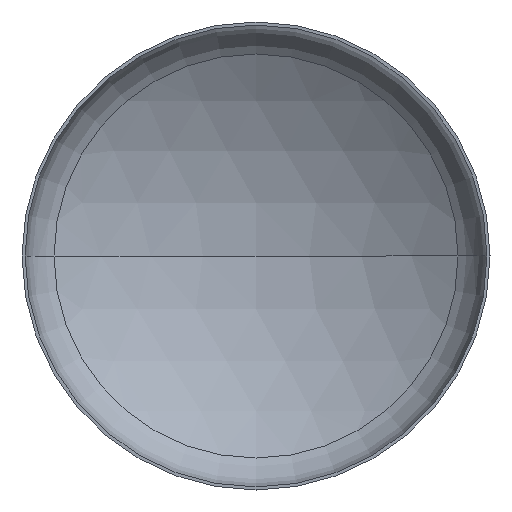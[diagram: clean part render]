
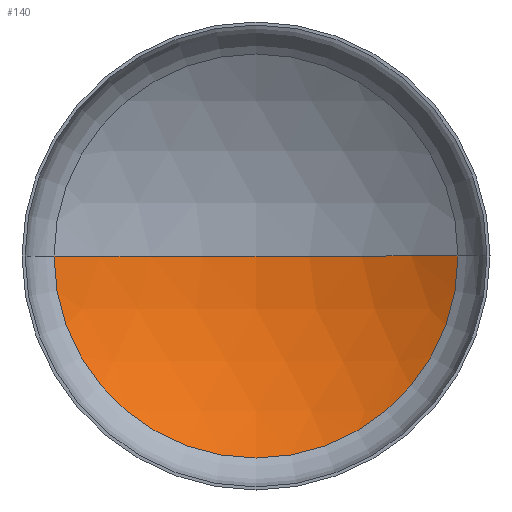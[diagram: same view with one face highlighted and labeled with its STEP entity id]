
A CAD part, front view. The second image highlights one B-rep face of the part: STEP entity #140.
In plain terms, the highlighted spherical face has radius 239.2 mm.
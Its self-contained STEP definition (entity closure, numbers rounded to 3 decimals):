
#22 = DIRECTION ( 'NONE',  ( 1., 0., 0. ) ) ;
#35 = AXIS2_PLACEMENT_3D ( 'NONE', #373, #214, #341 ) ;
#36 = CARTESIAN_POINT ( 'NONE',  ( -131.221, 34.794, 0. ) ) ;
#41 = DIRECTION ( 'NONE',  ( -1., 0., 0. ) ) ;
#66 = VERTEX_POINT ( 'NONE', #36 ) ;
#109 = SPHERICAL_SURFACE ( 'NONE', #157, 239.2 ) ;
#111 = DIRECTION ( 'NONE',  ( -1., 0., 0. ) ) ;
#112 = EDGE_CURVE ( 'NONE', #66, #164, #173, .T. ) ;
#115 = DIRECTION ( 'NONE',  ( 0., 0., 1. ) ) ;
#139 = EDGE_LOOP ( 'NONE', ( #159, #270, #311 ) ) ;
#140 = ADVANCED_FACE ( 'NONE', ( #294 ), #109, .F. ) ;
#145 = CARTESIAN_POINT ( 'NONE',  ( 0., -165.2, 0. ) ) ;
#157 = AXIS2_PLACEMENT_3D ( 'NONE', #303, #395, #41 ) ;
#159 = ORIENTED_EDGE ( 'NONE', *, *, #231, .F. ) ;
#164 = VERTEX_POINT ( 'NONE', #399 ) ;
#173 = CIRCLE ( 'NONE', #297, 239.2 ) ;
#174 = CARTESIAN_POINT ( 'NONE',  ( 131.221, 34.794, 0. ) ) ;
#198 = VERTEX_POINT ( 'NONE', #174 ) ;
#214 = DIRECTION ( 'NONE',  ( 0., 1., 0. ) ) ;
#231 = EDGE_CURVE ( 'NONE', #198, #66, #241, .T. ) ;
#241 = CIRCLE ( 'NONE', #35, 131.221 ) ;
#270 = ORIENTED_EDGE ( 'NONE', *, *, #350, .T. ) ;
#294 = FACE_OUTER_BOUND ( 'NONE', #139, .T. ) ;
#297 = AXIS2_PLACEMENT_3D ( 'NONE', #145, #358, #111 ) ;
#303 = CARTESIAN_POINT ( 'NONE',  ( 0., -165.2, 0. ) ) ;
#311 = ORIENTED_EDGE ( 'NONE', *, *, #112, .F. ) ;
#314 = CIRCLE ( 'NONE', #366, 239.2 ) ;
#326 = CARTESIAN_POINT ( 'NONE',  ( 0., -165.2, 0. ) ) ;
#341 = DIRECTION ( 'NONE',  ( -1., 0., 0. ) ) ;
#350 = EDGE_CURVE ( 'NONE', #198, #164, #314, .T. ) ;
#358 = DIRECTION ( 'NONE',  ( 0., 0., -1. ) ) ;
#366 = AXIS2_PLACEMENT_3D ( 'NONE', #326, #115, #22 ) ;
#373 = CARTESIAN_POINT ( 'NONE',  ( 0., 34.794, 0. ) ) ;
#395 = DIRECTION ( 'NONE',  ( 0., 0., 1. ) ) ;
#399 = CARTESIAN_POINT ( 'NONE',  ( 0., 74., 0. ) ) ;
